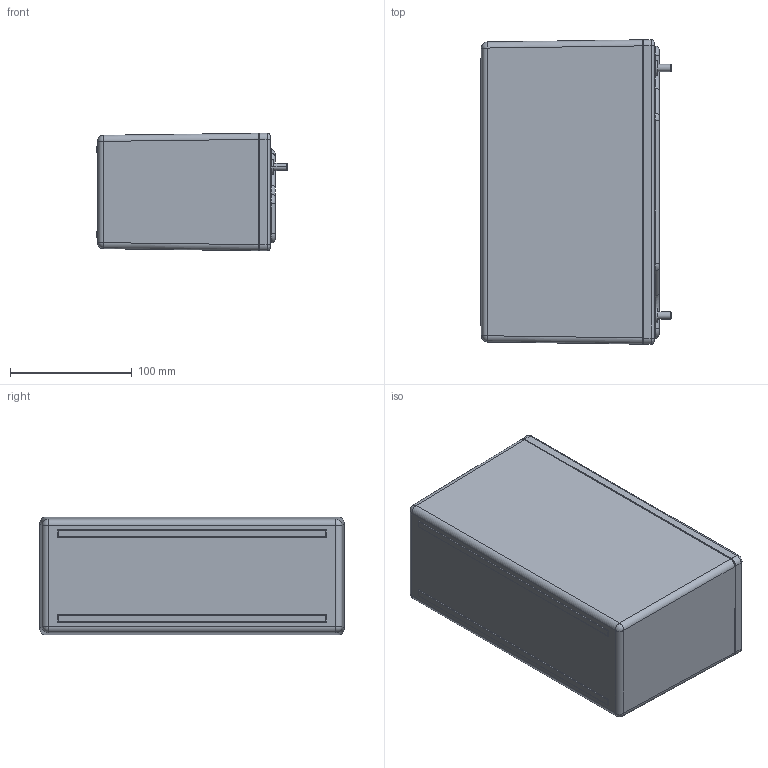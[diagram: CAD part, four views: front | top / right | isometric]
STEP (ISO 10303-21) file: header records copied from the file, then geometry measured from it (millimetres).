
FILE_DESCRIPTION (( 'STEP AP203' ), '1' );
FILE_NAME ('PC950.STEP', '2024-02-28T21:07:23', ( '' ), ( '' ), 'SwSTEP 2.0', 'SolidWorks 2022', '' );
FILE_SCHEMA (( 'CONFIG_CONTROL_DESIGN' ));
Length unit declared in the file: inch
Products named in the file (1): PC950
Bounding box: 156.5 x 250.2 x 96.7 mm (x, y, z)
Surface area: 149500.5 mm2 (no closed solid volume)
Topology: 0 solids, 22 shells, 359 faces, 989 edges, 667 vertices
Faces by surface type: plane 132, bspline 87, cylinder 82, torus 28, cone 26, sphere 4
Entity records: 16352 total; most frequent: CARTESIAN_POINT 7635, ORIENTED_EDGE 1775, DIRECTION 1600, EDGE_CURVE 989, VERTEX_POINT 667, AXIS2_PLACEMENT_3D 539, LINE 522, VECTOR 522
